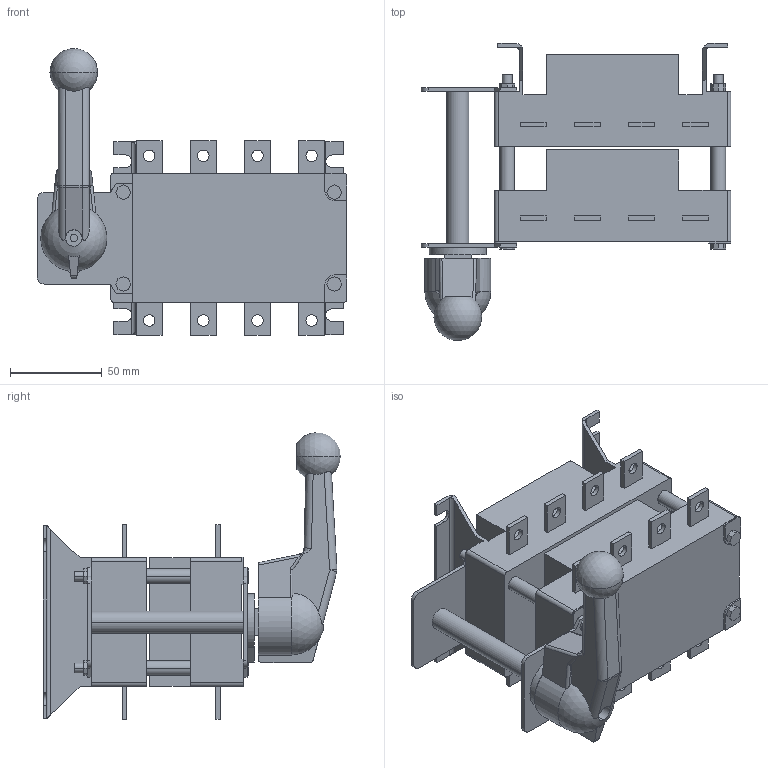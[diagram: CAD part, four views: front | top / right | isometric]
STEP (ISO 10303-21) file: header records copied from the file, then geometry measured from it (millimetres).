
FILE_DESCRIPTION((''),'2;1');
FILE_NAME('NH40-16_100-4CSW_4P_202407_ASM','2024-07-30T',('zhuanghy'),(''),'CREO PARAMETRIC BY PTC INC, 2018070','CREO PARAMETRIC BY PTC INC, 2018070','');
FILE_SCHEMA(('AUTOMOTIVE_DESIGN { 1 0 10303 214 1 1 1 1 }'));
Length unit declared in the file: millimetre
Products named in the file (7): PRT0001_1_1; NH40-100-160_ASM_4_1_ASM_1_AS_5_ASM; ASM0002_ASM_1_ASM_1_1_ASM; NH40-315_400-4CSW_3P_202312_A_4_ASM; PRT0002_1; NH40-16_100-4CSW_4P_202405_ASM__ASM; NH40-16_100-4CSW_4P_202407_ASM
Assembly tree (6 placements, depth 5):
  NH40-16_100-4CSW_4P_202407_ASM
    NH40-16_100-4CSW_4P_202405_ASM__ASM
      NH40-315_400-4CSW_3P_202312_A_4_ASM
        PRT0001_1_1
        ASM0002_ASM_1_ASM_1_1_ASM
          NH40-100-160_ASM_4_1_ASM_1_AS_5_ASM
      PRT0002_1
Bounding box: 168.76 x 162 x 156.28 mm (x, y, z)
Volume: 845710.5 mm3; surface area: 130790.9 mm2
Topology: 2 solids, 7 shells, 415 faces, 1104 edges, 732 vertices
Faces by surface type: plane 287, cylinder 119, sphere 5, bspline 4
Entity records: 13651 total; most frequent: CARTESIAN_POINT 2788, ORIENTED_EDGE 2200, DIRECTION 2150, EDGE_CURVE 1100, VECTOR 806, LINE 806, VERTEX_POINT 732, AXIS2_PLACEMENT_3D 672
